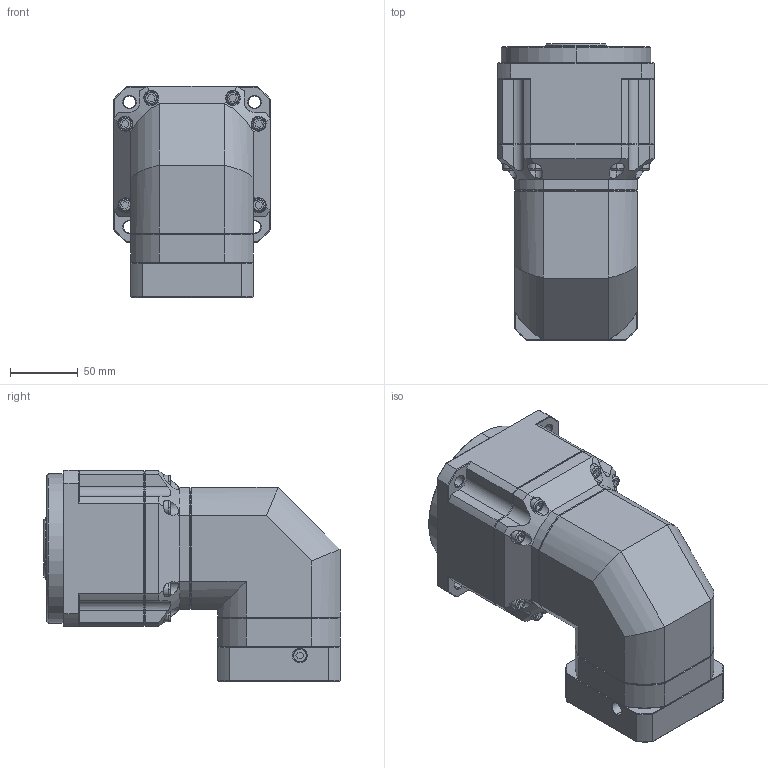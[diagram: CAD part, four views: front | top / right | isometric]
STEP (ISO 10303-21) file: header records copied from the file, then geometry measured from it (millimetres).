
FILE_DESCRIPTION (( 'STEP AP214' ), '1' );
FILE_NAME ('ZPBR115-K32-L2-P1-14-50-70-M5.step', '2024-06-29T08:13:24', ( 'Windows 蚚誧' ), ( 'Organization' ), 'SwSTEP 2.0', 'SolidWorks 2016', '' );
FILE_SCHEMA (( 'AUTOMOTIVE_DESIGN' ));
Length unit declared in the file: millimetre
Products named in the file (1): ZPBR115-K32-L2-P1-14-50-70-M5
Bounding box: 115 x 218 x 155.5 mm (x, y, z)
Surface area: 145336.5 mm2 (no closed solid volume)
Topology: 0 solids, 2 shells, 1757 faces, 4707 edges, 3052 vertices
Faces by surface type: plane 1028, bspline 390, cylinder 189, cone 150
Entity records: 85856 total; most frequent: CARTESIAN_POINT 38532, ORIENTED_EDGE 9412, DIRECTION 6962, EDGE_CURVE 4707, VECTOR 3184, LINE 3184, VERTEX_POINT 3052, AXIS2_PLACEMENT_3D 1889
